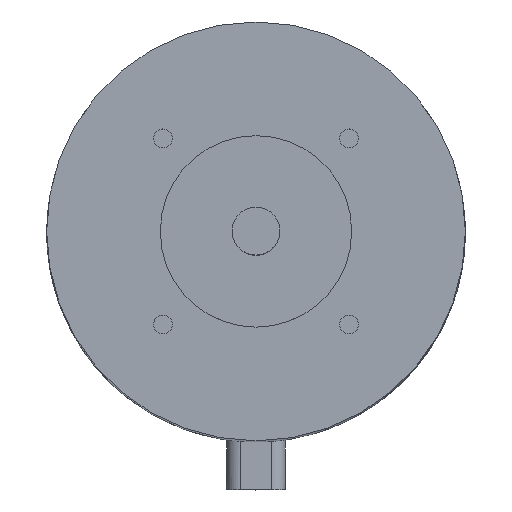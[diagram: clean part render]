
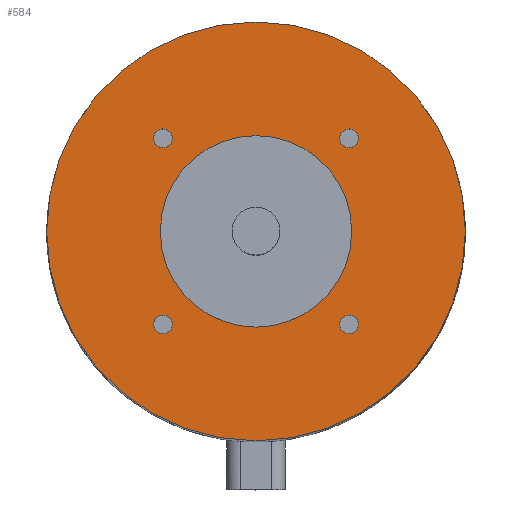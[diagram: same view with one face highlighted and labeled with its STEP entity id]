
A CAD part, top view. The second image highlights one B-rep face of the part: STEP entity #584.
In plain terms, the highlighted planar face has unit normal (0, 0, 1).
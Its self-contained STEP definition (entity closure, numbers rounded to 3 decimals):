
#73=CARTESIAN_POINT('',(8.562,7.778,0.));
#74=VERTEX_POINT('',#73);
#75=CARTESIAN_POINT('',(7.778,7.778,0.));
#76=DIRECTION('',(0.0,0.0,-1.0));
#77=DIRECTION('',(1.0,0.0,0.0));
#78=AXIS2_PLACEMENT_3D('',#75,#76,#77);
#79=CIRCLE('',#78,0.784);
#80=EDGE_CURVE('',#74,#74,#79,.T.);
#110=CARTESIAN_POINT('',(8.562,-7.778,0.));
#111=VERTEX_POINT('',#110);
#112=CARTESIAN_POINT('',(7.778,-7.778,0.));
#113=DIRECTION('',(0.0,0.0,-1.0));
#114=DIRECTION('',(1.0,0.0,0.0));
#115=AXIS2_PLACEMENT_3D('',#112,#113,#114);
#116=CIRCLE('',#115,0.784);
#117=EDGE_CURVE('',#111,#111,#116,.T.);
#147=CARTESIAN_POINT('',(-6.995,-7.778,0.));
#148=VERTEX_POINT('',#147);
#149=CARTESIAN_POINT('',(-7.778,-7.778,0.));
#150=DIRECTION('',(0.0,0.0,-1.0));
#151=DIRECTION('',(1.0,0.0,0.0));
#152=AXIS2_PLACEMENT_3D('',#149,#150,#151);
#153=CIRCLE('',#152,0.784);
#154=EDGE_CURVE('',#148,#148,#153,.T.);
#184=CARTESIAN_POINT('',(-6.995,7.778,0.));
#185=VERTEX_POINT('',#184);
#186=CARTESIAN_POINT('',(-7.778,7.778,0.));
#187=DIRECTION('',(0.0,0.0,-1.0));
#188=DIRECTION('',(1.0,0.0,0.0));
#189=AXIS2_PLACEMENT_3D('',#186,#187,#188);
#190=CIRCLE('',#189,0.784);
#191=EDGE_CURVE('',#185,#185,#190,.T.);
#523=CARTESIAN_POINT('',(0.0,-17.5,0.));
#524=VERTEX_POINT('',#523);
#525=CARTESIAN_POINT('',(0.0,0.0,0.));
#526=DIRECTION('',(0.0,0.0,1.0));
#527=DIRECTION('',(0.0,-1.0,0.0));
#528=AXIS2_PLACEMENT_3D('',#525,#526,#527);
#529=CIRCLE('',#528,17.5);
#530=EDGE_CURVE('',#524,#524,#529,.T.);
#553=CARTESIAN_POINT('',(0.0,-12.75,0.));
#554=DIRECTION('',(0.0,0.0,1.0));
#555=DIRECTION('',(1.0,0.0,0.0));
#556=AXIS2_PLACEMENT_3D('',#553,#554,#555);
#557=PLANE('',#556);
#558=ORIENTED_EDGE('',*,*,#530,.T.);
#559=EDGE_LOOP('',(#558));
#560=FACE_OUTER_BOUND('',#559,.T.);
#561=ORIENTED_EDGE('',*,*,#80,.T.);
#562=EDGE_LOOP('',(#561));
#563=FACE_BOUND('',#562,.T.);
#564=ORIENTED_EDGE('',*,*,#117,.T.);
#565=EDGE_LOOP('',(#564));
#566=FACE_BOUND('',#565,.T.);
#567=ORIENTED_EDGE('',*,*,#154,.T.);
#568=EDGE_LOOP('',(#567));
#569=FACE_BOUND('',#568,.T.);
#570=ORIENTED_EDGE('',*,*,#191,.T.);
#571=EDGE_LOOP('',(#570));
#572=FACE_BOUND('',#571,.T.);
#573=CARTESIAN_POINT('',(0.0,-8.0,0.0));
#574=VERTEX_POINT('',#573);
#575=CARTESIAN_POINT('',(0.0,0.0,0.0));
#576=DIRECTION('',(0.0,0.0,1.0));
#577=DIRECTION('',(0.0,-1.0,0.0));
#578=AXIS2_PLACEMENT_3D('',#575,#576,#577);
#579=CIRCLE('',#578,8.0);
#580=EDGE_CURVE('',#574,#574,#579,.T.);
#581=ORIENTED_EDGE('',*,*,#580,.F.);
#582=EDGE_LOOP('',(#581));
#583=FACE_BOUND('',#582,.T.);
#584=ADVANCED_FACE('',(#560,#563,#566,#569,#572,#583),#557,.T.);
